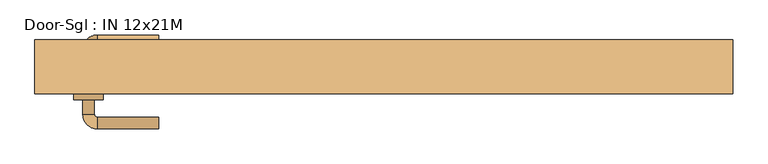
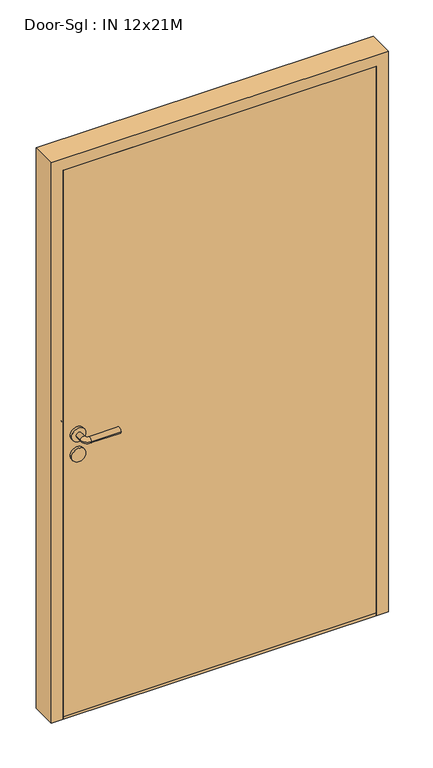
"""IFC4 building model written with IfcOpenShell, lengths in millimetres: door geometry, Door-Sgl : IN 12x21M."""

from ifc_helpers import new_model, si_unit, point, frame, frame_2d, origin, origin_with_axes, place, context, project, spatial, polyline, circle_curve, ellipse_curve, trimmed, segment, composite_curve, outline, extrude, source, transform, mapped, element, save
from ifc_brep_helpers import plane_surface, cylinder_surface, revolved_surface, advanced_brep


def door_sgl_in_12x21m_f219cc28(model_context):
    return source(origin(), model_context, "Body", "SolidModel", [
        extrude(outline(polyline([(0.0, 595.0), (2090.0, 595.0), (2090.0, -595.0), (0.0, -595.0), (0.0, -553.0), (2048.0, -553.0), (2048.0, 553.0), (0.0, 553.0), (0.0, 595.0)])), frame((0.0, -86.0, 0.0), z_axis=(0.0, 1.0, 0.0), x_axis=(0.0, 0.0, 1.0)), (0.0, 0.0, 1.0), 92.0),
        extrude(outline(composite_curve([segment(trimmed(circle_curve(frame_2d((1050.0, -503.5)), 25.0), [point((1050.0, -528.5))], [point((1050.0, -478.5))], False, "CARTESIAN"), True, "CONTINUOUS"), segment(trimmed(circle_curve(frame_2d((1050.0, -503.5)), 25.0), [point((1050.0, -478.5))], [point((1050.0, -528.5))], False, "CARTESIAN"), True, "CONTINUOUS")], self_intersect=False)), frame((0.0, -96.0, 0.0), z_axis=(0.0, 1.0, 0.0), x_axis=(0.0, 0.0, 1.0)), (0.0, 0.0, 1.0), 10.0),
        extrude(outline(composite_curve([segment(trimmed(circle_curve(frame_2d((975.0, -503.5)), 25.0), [point((975.0, -528.5))], [point((975.0, -478.5))], False, "CARTESIAN"), True, "CONTINUOUS"), segment(trimmed(circle_curve(frame_2d((975.0, -503.5)), 25.0), [point((975.0, -478.5))], [point((975.0, -528.5))], False, "CARTESIAN"), True, "CONTINUOUS")], self_intersect=False)), frame((0.0, -96.0, 0.0), z_axis=(0.0, 1.0, 0.0), x_axis=(0.0, 0.0, 1.0)), (0.0, 0.0, 1.0), 10.0),
        advanced_brep(
        [(-493.5, -96.0, 1050.0), (-513.5, -96.0, 1050.0), (-513.5, -121.0, 1050.0), (-493.5, -121.0, 1050.0), (-488.5, -146.0, 1050.0), (-488.5, -126.0, 1050.0), (-383.5, -126.0, 1050.0), (-383.5, -146.0, 1050.0)],
        [
            (0, 1, circle_curve(frame((-503.5, -96.0, 1050.0), z_axis=(0.0, 1.0, 0.0), x_axis=(-1.0, 0.0, 0.0)), 10.0)),
            (1, 0, circle_curve(frame((-503.5, -96.0, 1050.0), z_axis=(0.0, 1.0, 0.0), x_axis=(-1.0, 0.0, 0.0)), 10.0)),
            (1, 2),
            (2, 3, circle_curve(frame((-503.5, -121.0, 1050.0), z_axis=(0.0, 1.0, 0.0), x_axis=(-1.0, 0.0, 0.0)), 10.0)),
            (3, 0),
            (3, 2, circle_curve(frame((-503.5, -121.0, 1050.0), z_axis=(0.0, 1.0, 0.0), x_axis=(-1.0, 0.0, 0.0)), 10.0)),
            (4, 5, circle_curve(frame((-488.5, -136.0, 1050.0), z_axis=(-1.0, 0.0, 0.0), x_axis=(0.0, -1.0, 0.0)), 10.0)),
            (5, 3, circle_curve(frame((-488.5, -121.0, 1050.0), z_axis=(0.0, 0.0, -1.0), x_axis=(-1.0, 0.0, 0.0)), 5.0)),
            (2, 4, circle_curve(frame((-488.5, -121.0, 1050.0), z_axis=(0.0, 0.0, 1.0), x_axis=(-1.0, 0.0, 0.0)), 25.0)),
            (5, 4, circle_curve(frame((-488.5, -136.0, 1050.0), z_axis=(-1.0, 0.0, 0.0), x_axis=(0.0, -1.0, 0.0)), 10.0)),
            (6, 7, circle_curve(frame((-383.5, -136.0, 1050.0), z_axis=(1.0, 0.0, 0.0), x_axis=(0.0, -1.0, 0.0)), 10.0)),
            (7, 6, circle_curve(frame((-383.5, -136.0, 1050.0), z_axis=(1.0, 0.0, 0.0), x_axis=(0.0, -1.0, 0.0)), 10.0)),
            (4, 7),
            (6, 5),
        ],
        [
            plane_surface(frame((-503.5, -96.0, 0.0), z_axis=(0.0, 1.0, 0.0), x_axis=(0.0, 0.0, 1.0))),
            cylinder_surface(frame((-503.5, -96.0, 1050.0), z_axis=(0.0, 1.0, 0.0), x_axis=(-1.0, 0.0, 0.0)), 10.0),
            revolved_surface(trimmed(ellipse_curve(frame((-503.5, -121.0, 1050.0), z_axis=(0.0, -1.0, 0.0), x_axis=(-1.0, 0.0, 0.0)), 10.0, 10.0), [point((-493.5, -121.0, 1050.0))], [point((-513.5, -121.0, 1050.0))], True, "CARTESIAN"), (-488.5, -121.0, 0.0), (0.0, 0.0, -1.0)),
            revolved_surface(trimmed(ellipse_curve(frame((-503.5, -121.0, 1050.0), z_axis=(0.0, -1.0, 0.0), x_axis=(-1.0, 0.0, 0.0)), 10.0, 10.0), [point((-513.5, -121.0, 1050.0))], [point((-493.5, -121.0, 1050.0))], True, "CARTESIAN"), (-488.5, -121.0, 0.0), (0.0, 0.0, -1.0)),
            plane_surface(frame((-383.5, -136.0, 0.0), z_axis=(1.0, 0.0, 0.0), x_axis=(0.0, 0.0, 1.0))),
            cylinder_surface(frame((-488.5, -136.0, 1050.0), z_axis=(-1.0, 0.0, 0.0), x_axis=(0.0, -1.0, 0.0)), 10.0),
        ],
        [
            (0, [[1, 2]]),
            (1, [[3, 4, 5, -2]]),
            (1, [[-5, 6, -3, -1]]),
            (2, [[7, 8, -4, 9]]),
            (3, [[10, -9, -6, -8]]),
            (4, [[11, 12]]),
            (5, [[13, -11, 14, -7]]),
            (5, [[-14, -12, -13, -10]]),
        ],
    ),
        extrude(outline(composite_curve([segment(trimmed(circle_curve(frame_2d((1050.0, -503.5)), 25.0), [point((1050.0, -528.5))], [point((1050.0, -478.5))], False, "CARTESIAN"), True, "CONTINUOUS"), segment(trimmed(circle_curve(frame_2d((1050.0, -503.5)), 25.0), [point((1050.0, -478.5))], [point((1050.0, -528.5))], False, "CARTESIAN"), True, "CONTINUOUS")], self_intersect=False)), frame((0.0, -46.0, 0.0), z_axis=(0.0, 1.0, 0.0), x_axis=(0.0, 0.0, 1.0)), (0.0, 0.0, 1.0), 10.0),
        extrude(outline(composite_curve([segment(trimmed(circle_curve(frame_2d((975.0, -503.5)), 25.0), [point((975.0, -528.5))], [point((975.0, -478.5))], False, "CARTESIAN"), True, "CONTINUOUS"), segment(trimmed(circle_curve(frame_2d((975.0, -503.5)), 25.0), [point((975.0, -478.5))], [point((975.0, -528.5))], False, "CARTESIAN"), True, "CONTINUOUS")], self_intersect=False)), frame((0.0, -46.0, 0.0), z_axis=(0.0, 1.0, 0.0), x_axis=(0.0, 0.0, 1.0)), (0.0, 0.0, 1.0), 10.0),
        advanced_brep(
        [(-513.5, -36.0, 1050.0), (-493.5, -36.0, 1050.0), (-513.5, -11.0, 1050.0), (-493.5, -11.0, 1050.0), (-488.5, 14.0, 1050.0), (-488.5, -6.0, 1050.0), (-383.5, 14.0, 1050.0), (-383.5, -6.0, 1050.0)],
        [
            (0, 1, circle_curve(frame((-503.5, -36.0, 1050.0), z_axis=(0.0, -1.0, 0.0), x_axis=(1.0, 0.0, 0.0)), 10.0)),
            (1, 0, circle_curve(frame((-503.5, -36.0, 1050.0), z_axis=(0.0, -1.0, 0.0), x_axis=(1.0, 0.0, 0.0)), 10.0)),
            (0, 2),
            (2, 3, circle_curve(frame((-503.5, -11.0, 1050.0), z_axis=(0.0, -1.0, 0.0), x_axis=(1.0, 0.0, 0.0)), 10.0)),
            (3, 1),
            (3, 2, circle_curve(frame((-503.5, -11.0, 1050.0), z_axis=(0.0, -1.0, 0.0), x_axis=(1.0, 0.0, 0.0)), 10.0)),
            (4, 5, circle_curve(frame((-488.5, 4.0, 1050.0), z_axis=(-1.0, 0.0, 0.0), x_axis=(0.0, -1.0, 0.0)), 10.0)),
            (5, 3, circle_curve(frame((-488.5, -11.0, 1050.0), z_axis=(0.0, 0.0, 1.0), x_axis=(-1.0, 0.0, 0.0)), 5.0)),
            (2, 4, circle_curve(frame((-488.5, -11.0, 1050.0), z_axis=(0.0, 0.0, -1.0), x_axis=(-1.0, 0.0, 0.0)), 25.0)),
            (5, 4, circle_curve(frame((-488.5, 4.0, 1050.0), z_axis=(-1.0, 0.0, 0.0), x_axis=(0.0, -1.0, 0.0)), 10.0)),
            (6, 7, circle_curve(frame((-383.5, 4.0, 1050.0), z_axis=(1.0, 0.0, 0.0), x_axis=(0.0, -1.0, 0.0)), 10.0)),
            (7, 6, circle_curve(frame((-383.5, 4.0, 1050.0), z_axis=(1.0, 0.0, 0.0), x_axis=(0.0, -1.0, 0.0)), 10.0)),
            (4, 6),
            (7, 5),
        ],
        [
            plane_surface(frame((-503.5, -36.0, 0.0), z_axis=(0.0, -1.0, 0.0), x_axis=(0.0, 0.0, 1.0))),
            cylinder_surface(frame((-503.5, -36.0, 1050.0), z_axis=(0.0, -1.0, 0.0), x_axis=(1.0, 0.0, 0.0)), 10.0),
            revolved_surface(trimmed(ellipse_curve(frame((-503.5, -11.0, 1050.0), z_axis=(0.0, 1.0, 0.0), x_axis=(1.0, 0.0, 0.0)), 10.0, 10.0), [point((-493.5, -11.0, 1050.0))], [point((-513.5, -11.0, 1050.0))], True, "CARTESIAN"), (-488.5, -11.0, 0.0), (0.0, 0.0, 1.0)),
            revolved_surface(trimmed(ellipse_curve(frame((-503.5, -11.0, 1050.0), z_axis=(0.0, 1.0, 0.0), x_axis=(1.0, 0.0, 0.0)), 10.0, 10.0), [point((-513.5, -11.0, 1050.0))], [point((-493.5, -11.0, 1050.0))], True, "CARTESIAN"), (-488.5, -11.0, 0.0), (0.0, 0.0, 1.0)),
            plane_surface(frame((-383.5, 4.0, 0.0), z_axis=(1.0, 0.0, 0.0), x_axis=(0.0, 0.0, 1.0))),
            cylinder_surface(frame((-488.5, 4.0, 1050.0), z_axis=(-1.0, 0.0, 0.0), x_axis=(0.0, -1.0, 0.0)), 10.0),
        ],
        [
            (0, [[1, 2]]),
            (1, [[3, 4, 5, -1]]),
            (1, [[-5, 6, -3, -2]]),
            (2, [[7, 8, -4, 9]]),
            (3, [[10, -9, -6, -8]]),
            (4, [[11, 12]]),
            (5, [[13, -12, 14, -7]]),
            (5, [[-14, -11, -13, -10]]),
        ],
    ),
        extrude(outline(polyline([(553.0, -46.0), (553.0, -86.0), (-553.0, -86.0), (-553.0, -46.0), (553.0, -46.0)])), frame((0.0, 0.0, 10.0), z_axis=(0.0, 0.0, 1.0), x_axis=(1.0, 0.0, 0.0)), (0.0, 0.0, 1.0), 2038.0),
        extrude(outline(polyline([(553.0, 6.0), (553.0, -86.0), (-553.0, -86.0), (-553.0, 6.0), (553.0, 6.0)])), origin_with_axes(), (0.0, 0.0, 1.0), 10.0),
    ])


if __name__ == "__main__":
    model = new_model("IFC4")
    model_context = context("Model", 3, world=origin())
    ifc_project = project(units=[si_unit("LENGTHUNIT", "METRE", prefix="MILLI")], contexts=[model_context])
    site = spatial("IfcSite", under=ifc_project)
    building = spatial("IfcBuilding", under=site)
    placement = place(None, origin())
    door_sgl_in_12x21m_shape = door_sgl_in_12x21m_f219cc28(model_context)
    element("IfcDoor", 1, ObjectType="Door-Sgl : IN 12x21M", at=placement, inside=building, context=model_context, shape_type="MappedRepresentation", body=[
        mapped(door_sgl_in_12x21m_shape, transform((0.0, 0.0, 0.0), x_axis=(1.0, 0.0, 0.0), y_axis=(0.0, 1.0, 0.0), z_axis=(0.0, 0.0, 1.0))),
    ])
    save(model, "model.ifc")
